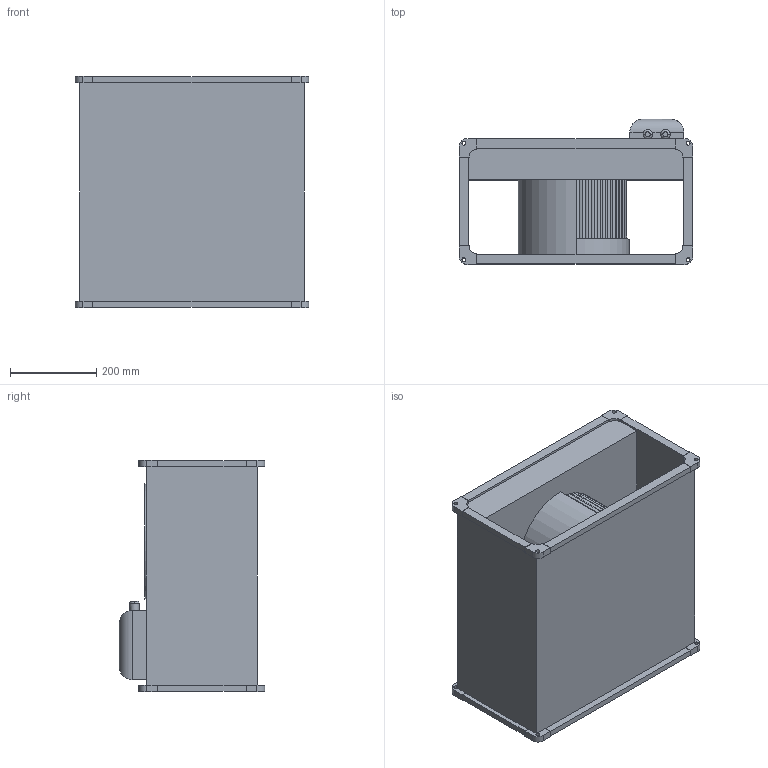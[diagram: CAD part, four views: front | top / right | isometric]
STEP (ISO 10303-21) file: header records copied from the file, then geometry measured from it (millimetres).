
FILE_DESCRIPTION(('STEP AP214'),'1');
FILE_NAME('fan_5132051300.stp','2017-03-31T18:13:26',('TraceParts'),('TraceParts S.A.'),'Spatial InterOp 3D',' ',' ');
FILE_SCHEMA(('automotive_design'));
Length unit declared in the file: millimetre
Products named in the file (1): fan_5132051300
Bounding box: 542 x 337.5 x 537 mm (x, y, z)
Volume: 34669284.9 mm3; surface area: 1972891.6 mm2
Topology: 1 solids, 1 shells, 257 faces, 760 edges, 506 vertices
Faces by surface type: cylinder 154, plane 99, torus 4
Entity records: 10924 total; most frequent: CARTESIAN_POINT 1624, DIRECTION 1590, ORIENTED_EDGE 1520, EDGE_CURVE 760, AXIS2_PLACEMENT_3D 576, VERTEX_POINT 506, LINE 438, VECTOR 438
